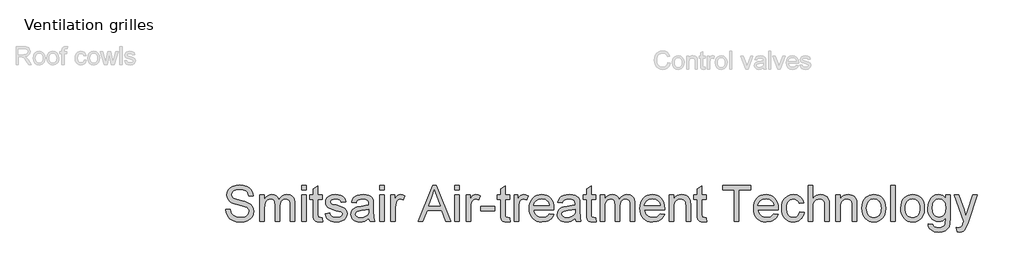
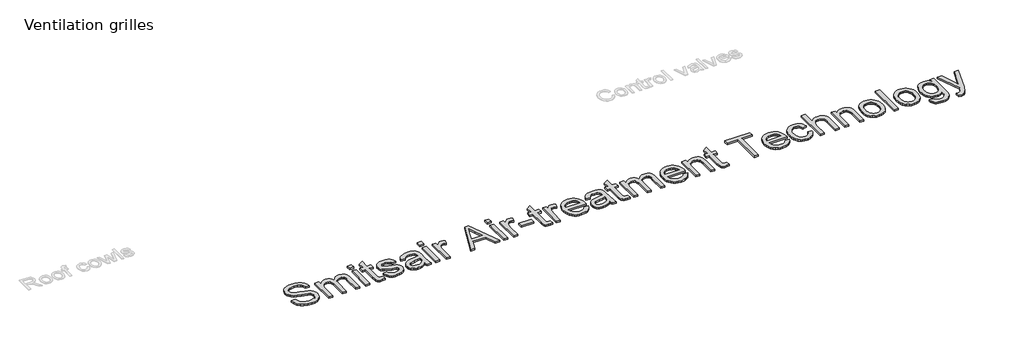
# One storey, part 5 of 10: 1 proxy.
"""IFC4 building model written with IfcOpenShell, lengths in millimetres."""

import ifcopenshell
import ifcopenshell.guid

model = None  # the IFC model being written
_history = None  # IfcOwnerHistory: only IFC2X3 demands one
_inside = {}  # id of a spatial element -> (the spatial element, [elements in it])
_under = {}  # id of a project, library or spatial element -> (it, [spatial elements below it])
_declared = {}  # id of a project -> (the project, [libraries it declares])
_typed = {}  # id of a type object -> (the type object, [elements of that type])
_made_of = {}  # id of a material, layer set ... -> (it, [elements and type objects made of it])


def new_model(schema):
    """Start an empty IFC model of exactly this schema.

    Asked for "IFC4X3", IfcOpenShell would pick the latest addendum, in which some entities
    have other attributes; the version numbers below select the first issue.
    IFC2X3 requires an IfcOwnerHistory on every rooted entity: one is made here for all.
    """
    global model, _history
    if schema == "IFC4X3":
        model = ifcopenshell.file(schema_version=(4, 3, 0, 0))
    else:
        model = ifcopenshell.file(schema=schema)
    _inside.clear()
    _under.clear()
    _declared.clear()
    _typed.clear()
    _made_of.clear()
    _history = None
    if model.schema == "IFC2X3":
        org = make("IfcOrganization", Name="unknown")
        user = make(
            "IfcPersonAndOrganization",
            ThePerson=make("IfcPerson", FamilyName="unknown"),
            TheOrganization=org,
        )
        app = make(
            "IfcApplication",
            ApplicationDeveloper=org,
            Version="unknown",
            ApplicationFullName="unknown",
            ApplicationIdentifier="unknown",
        )
        _history = make(
            "IfcOwnerHistory",
            OwningUser=user,
            OwningApplication=app,
            ChangeAction="ADDED",
            CreationDate=0,
        )
    return model


def make(cls, **values):
    """One entity of the class cls with the attributes given. An attribute that is None is left unset."""
    return model.create_entity(
        cls, **{name: value for name, value in values.items() if value is not None}
    )


def rooted(cls, **values):
    """An entity with a GlobalId (a new one), such as an element, a storey or a relation."""
    return make(cls, GlobalId=ifcopenshell.guid.new(), OwnerHistory=_history, **values)


def si_unit(unit_type, name, prefix=None):
    """IfcSIUnit, for example si_unit("LENGTHUNIT", "METRE", prefix="MILLI")."""
    return make("IfcSIUnit", UnitType=unit_type, Prefix=prefix, Name=name)


def assignment(units):
    """IfcUnitAssignment: the units of a project."""
    return None if units is None else make("IfcUnitAssignment", Units=units)


def point(xyz):
    """IfcCartesianPoint."""
    return None if xyz is None else make("IfcCartesianPoint", Coordinates=xyz)


def direction(xyz):
    """IfcDirection."""
    return None if xyz is None else make("IfcDirection", DirectionRatios=xyz)


def frame(location, z_axis=None, x_axis=None):
    """IfcAxis2Placement3D, a coordinate frame: its origin and axes. An axis left out is left unset."""
    return make(
        "IfcAxis2Placement3D",
        Location=point(location),
        Axis=direction(z_axis),
        RefDirection=direction(x_axis),
    )


def origin():
    """The frame at (0, 0, 0) with its axes left unset."""
    return frame((0.0, 0.0, 0.0))


def origin_with_axes():
    """The frame at (0, 0, 0) with the z axis (0, 0, 1) and the x axis (1, 0, 0) written out."""
    return frame((0.0, 0.0, 0.0), z_axis=(0.0, 0.0, 1.0), x_axis=(1.0, 0.0, 0.0))


def place(relative_to, where):
    """IfcLocalPlacement: puts the frame where relative to a parent placement (None: the world)."""
    return make(
        "IfcLocalPlacement", PlacementRelTo=relative_to, RelativePlacement=where
    )


def context(
    kind, dimensions, precision=None, world=None, true_north=None, identifier=None
):
    """IfcGeometricRepresentationContext, for example the 3D "Model" context."""
    return make(
        "IfcGeometricRepresentationContext",
        ContextIdentifier=identifier,
        ContextType=kind,
        CoordinateSpaceDimension=dimensions,
        Precision=precision,
        WorldCoordinateSystem=world,
        TrueNorth=true_north,
    )


def project(units=None, contexts=None):
    """IfcProject with its units and contexts."""
    return rooted(
        "IfcProject",
        Name="project",
        RepresentationContexts=contexts,
        UnitsInContext=assignment(units),
    )


def spatial(cls, under=None, at=None, **own):
    """A site, building, storey or space (cls), placed at a placement, below another one or the project."""
    s = rooted(cls, ObjectPlacement=at, **own)
    if under is not None:
        _under.setdefault(under.id(), (under, []))[1].append(s)
    return s


def polyline(points):
    """IfcPolyline through the points."""
    return make("IfcPolyline", Points=[point(p) for p in points])


def outline(outer, holes=None, kind="AREA"):
    """IfcArbitraryClosedProfileDef: a profile drawn as a closed curve; with holes, ...WithVoids."""
    if holes is None:
        return make("IfcArbitraryClosedProfileDef", ProfileType=kind, OuterCurve=outer)
    return make(
        "IfcArbitraryProfileDefWithVoids",
        ProfileType=kind,
        OuterCurve=outer,
        InnerCurves=holes,
    )


def extrude(swept, where, along, depth):
    """IfcExtrudedAreaSolid: the profile swept, set in the frame where, extruded along a direction by depth."""
    return make(
        "IfcExtrudedAreaSolid",
        SweptArea=swept,
        Position=where,
        ExtrudedDirection=direction(along),
        Depth=depth,
    )


def shape(context_of_items, identifier, shape_type, items):
    """IfcShapeRepresentation: the items that make up one representation, for example the "Body"."""
    return make(
        "IfcShapeRepresentation",
        ContextOfItems=context_of_items,
        RepresentationIdentifier=identifier,
        RepresentationType=shape_type,
        Items=items,
    )


def made_of(thing, what):
    """Note that an element or type object is made of a material, layer set ...; save() writes the relation."""
    if what is not None:
        _made_of.setdefault(what.id(), (what, []))[1].append(thing)
    return thing


def element(
    cls,
    number,
    at=None,
    inside=None,
    cuts=None,
    type_object=None,
    material=None,
    context=None,
    identifier="Body",
    shape_type=None,
    held_by="IfcProductDefinitionShape",
    body=None,
    shapes=None,
    **own,
):
    """One element of the class cls, such as IfcWall. Its Tag is "e" and its number.

    at: its placement. inside: the storey or other place that contains it. cuts: it is an
    opening in that element (IfcRelVoidsElement). A single representation is given by context,
    identifier, shape_type and body (its items); several are given by shapes. held_by: the class
    of the entity that holds the representations. save() writes the other relations.
    """
    e = rooted(cls, Tag="e%d" % number, ObjectPlacement=at, **own)
    if body is not None:
        shapes = [shape(context, identifier, shape_type, body)]
    if shapes is not None:
        e.Representation = make(held_by, Representations=shapes)
    if inside is not None:
        _inside.setdefault(inside.id(), (inside, []))[1].append(e)
    if cuts is not None:
        rooted(
            "IfcRelVoidsElement", RelatingBuildingElement=cuts, RelatedOpeningElement=e
        )
    if type_object is not None:
        _typed.setdefault(type_object.id(), (type_object, []))[1].append(e)
    return made_of(e, material)


def aggregate(whole, parts):
    """IfcRelAggregates: a whole, such as a stair, and the parts it consists of."""
    return rooted("IfcRelAggregates", RelatingObject=whole, RelatedObjects=parts)


def save(model, path):
    """Write the relations noted so far, then the file.

    IfcRelAggregates (storeys below a building ...), IfcRelContainedInSpatialStructure (elements
    in a storey), IfcRelDefinesByType, IfcRelAssociatesMaterial and IfcRelDeclares: one each for
    every whole, place, type object, material and project.
    """
    for whole, parts in _under.values():
        aggregate(whole, parts)
    for where, things in _inside.values():
        rooted(
            "IfcRelContainedInSpatialStructure",
            RelatedElements=things,
            RelatingStructure=where,
        )
    for kind, things in _typed.values():
        rooted("IfcRelDefinesByType", RelatedObjects=things, RelatingType=kind)
    for what, things in _made_of.values():
        rooted("IfcRelAssociatesMaterial", RelatedObjects=things, RelatingMaterial=what)
    for by, libraries in _declared.values():
        rooted("IfcRelDeclares", RelatingContext=by, RelatedDefinitions=libraries)
    model.write(path)


model = new_model("IFC4")

# Units and contexts
model_context = context("Model", 3, world=origin())
ifc_project = project(units=[si_unit("LENGTHUNIT", "METRE", prefix="MILLI")], contexts=[model_context])

# Site, building, storey
site = spatial("IfcSite", under=ifc_project)
building = spatial("IfcBuilding", under=site)
storey = spatial("IfcBuildingStorey", under=building, Name="Ventilation grilles", Elevation=0.0)

# Proxy
placement = place(None, origin())
element("IfcBuildingElementProxy", 1, Name="400mm", ObjectType="400mm", at=placement, inside=storey, context=model_context, shape_type="SweptSolid", body=[
    extrude(outline(polyline([(7278.9594652, -17985.5221617), (7329.1876202, -17985.5221617), (7334.9511048, -18013.3953542), (7345.374428, -18035.7993677), (7361.6348122, -18053.5803308), (7384.9094798, -18067.5843721), (7413.3590207, -18076.6710574), (7445.1440251, -18079.6999525), (7473.1275822, -18077.4068214), (7497.6285231, -18070.5274281), (7517.4818881, -18059.638121), (7531.5227176, -18045.3152487), (7539.8736389, -18028.8709235), (7542.6572793, -18011.6172579), (7540.5726147, -17994.8050507), (7534.3186208, -17980.2737119), (7521.6144292, -17967.8760887), (7500.1791716, -17957.4650282), (7427.044231, -17938.2861135), (7379.0356306, -17925.5941847), (7348.317484, -17913.5153925), (7323.3137711, -17896.6173462), (7305.5941216, -17876.1385818), (7295.0359084, -17852.5205577), (7291.5165039, -17826.2047323), (7295.8697742, -17796.7864355), (7308.929585, -17769.3547014), (7330.3525799, -17746.1045593), (7359.7954022, -17729.2310384), (7395.1365993, -17718.9671307), (7434.2547181, -17715.5458282), (7476.6347239, -17719.1265463), (7513.717229, -17729.8687005), (7544.1778582, -17747.5515618), (7566.6922363, -17771.9544008), (7580.9415323, -17801.5566387), (7586.606915, -17834.8376965), (7536.3787599, -17834.8376965), (7527.1571846, -17804.8675766), (7518.7940006, -17793.0095136), (7507.929219, -17783.2361153), (7477.8855227, -17770.1395163), (7436.2167554, -17765.7739833), (7393.5669694, -17770.0904653), (7377.2636657, -17775.4860679), (7364.3080881, -17783.0399116), (7347.3855163, -17802.0961989), (7341.744659, -17824.7332044), (7345.74231, -17844.0347464), (7357.7352631, -17859.5593666), (7386.0867022, -17873.4407805), (7439.7484225, -17887.6165001), (7495.1269255, -17901.0809811), (7528.6287126, -17912.8286795), (7557.2621945, -17931.051101), (7577.2381869, -17953.5409536), (7588.9736225, -17980.0529827), (7592.8854344, -18010.3419337), (7588.3850113, -18041.3053349), (7574.8837421, -18070.4293262), (7552.9334497, -18095.4943528), (7523.0859572, -18114.28086), (7487.1929372, -18126.0162957), (7447.1060624, -18129.9281076), (7397.8957142, -18125.7097274), (7357.3919065, -18113.0545867), (7325.1286556, -18091.9136347), (7300.6399774, -18062.2378204), (7284.9191535, -18026.0872831), (7278.9594652, -17985.5221617)])), origin_with_axes(), (0.0, 0.0, 1.0), 20.0),
    extrude(outline(polyline([(7661.9491476, -18123.6495882), (7661.9491476, -17828.5591771), (7712.1773027, -17828.5591771), (7712.1773027, -17877.1196005), (7727.28499, -17854.8136888), (7746.7091593, -17837.3392941), (7769.7876231, -17826.0453168), (7795.8581939, -17822.2806577), (7823.7927, -17826.1188932), (7846.1844508, -17837.6335997), (7862.9108189, -17856.0644876), (7873.8491768, -17880.6512676), (7892.1574375, -17855.1141258), (7913.0408721, -17836.8733102), (7936.4994806, -17825.9288208), (7962.5332631, -17822.2806577), (7982.6410799, -17823.798171), (8000.2902186, -17828.3507106), (8015.4806793, -17835.9382768), (8028.212462, -17846.5608694), (8038.2771003, -17860.3411158), (8045.4661276, -17877.4016433), (8049.779544, -17897.742452), (8051.2173494, -17921.3635418), (8051.2173494, -18123.6495882), (8000.9891944, -18123.6495882), (8000.9891944, -17942.9459521), (7999.8242347, -17917.8931883), (7996.3293558, -17901.0074047), (7989.7810563, -17889.4436473), (7979.4558349, -17880.356962), (7966.1752949, -17874.4708501), (7950.7610393, -17872.5088128), (7923.5500344, -17877.5365334), (7901.3667501, -17892.6196952), (7892.7613771, -17904.189584), (7886.6146821, -17918.7883678), (7881.6973261, -17957.0726208), (7881.6973261, -18123.6495882), (7831.469171, -18123.6495882), (7831.469171, -17937.3541458), (7828.5629032, -17908.9536558), (7819.8440999, -17888.6956206), (7804.5034207, -17876.5555147), (7781.7315252, -17872.5088128), (7762.3809323, -17875.2066141), (7744.5509183, -17883.300018), (7729.8356385, -17896.5928208), (7719.8292482, -17914.8888186), (7714.0902891, -17940.2726763), (7712.1773027, -17974.8290584), (7712.1773027, -18123.6495882), (7661.9491476, -18123.6495882)])), origin_with_axes(), (0.0, 0.0, 1.0), 20.0),
    extrude(outline(polyline([(8126.5595821, -18123.6495882), (8126.5595821, -17828.5591771), (8176.7877371, -17828.5591771), (8176.7877371, -18123.6495882), (8126.5595821, -18123.6495882)])), origin_with_axes(), (0.0, 0.0, 1.0), 20.0),
    extrude(outline(polyline([(8126.5595821, -17772.0525027), (8126.5595821, -17721.8243476), (8176.7877371, -17721.8243476), (8176.7877371, -17772.0525027), (8126.5595821, -17772.0525027)])), origin_with_axes(), (0.0, 0.0, 1.0), 20.0),
    extrude(outline(polyline([(8358.8647993, -18081.7600917), (8365.1433187, -18125.1211162), (8327.5703042, -18129.9281076), (8303.4617708, -18127.8434429), (8285.484604, -18121.589449), (8272.7804124, -18111.9509407), (8264.4908048, -18099.712733), (8259.929068, -18078.6944084), (8258.4084891, -18042.7155492), (8258.4084891, -17878.7873322), (8220.7373728, -17878.7873322), (8220.7373728, -17828.5591771), (8258.4084891, -17828.5591771), (8258.4084891, -17756.8467135), (8308.6366442, -17727.318052), (8308.6366442, -17828.5591771), (8358.8647993, -17828.5591771), (8358.8647993, -17878.7873322), (8308.6366442, -17878.7873322), (8308.6366442, -18041.2440213), (8311.2853946, -18067.1429137), (8319.8693078, -18076.3154381), (8336.9880833, -18079.6999525), (8358.8647993, -18081.7600917)])), origin_with_axes(), (0.0, 0.0, 1.0), 20.0),
    extrude(outline(polyline([(8390.2573962, -18035.7503168), (8440.4855513, -18029.4717974), (8448.4072769, -18050.9561059), (8463.7356934, -18066.7505063), (8486.5689025, -18076.4625909), (8517.0050063, -18079.6999525), (8547.073228, -18076.7323711), (8568.21418, -18067.8296268), (8580.7221678, -18054.9292315), (8584.8914971, -18039.968697), (8580.6976424, -18027.1664036), (8568.1160781, -18017.405268), (8516.4163951, -18003.0823956), (8440.7798569, -17978.5078783), (8421.6377304, -17966.159306), (8407.7685792, -17949.8130827), (8399.3440815, -17930.5115407), (8396.5359156, -17909.2970123), (8398.7922585, -17889.8360548), (8405.5612872, -17871.8711507), (8416.2298651, -17856.1135386), (8430.1848554, -17843.2744569), (8462.1170126, -17828.4120243), (8483.0004472, -17823.8134994), (8505.3308843, -17822.2806577), (8538.0233309, -17824.7454671), (8566.4483464, -17832.1398952), (8589.3060811, -17843.7404408), (8605.2966851, -17858.8236026), (8615.8916866, -17878.5052893), (8622.5626134, -17903.9014097), (8572.3344583, -17910.1799291), (8565.9946253, -17894.373266), (8553.4498493, -17882.4661521), (8534.5775029, -17874.9981476), (8509.2549589, -17872.5088128), (8480.4130105, -17874.887783), (8461.1850449, -17882.0246937), (8450.3693142, -17892.3253896), (8446.7640707, -17904.1957153), (8452.7482845, -17918.8128933), (8471.4857407, -17929.8984041), (8514.7486634, -17940.5915074), (8588.4722152, -17964.2340569), (8607.9454355, -17975.5402969), (8622.7097662, -17991.0158662), (8632.0171807, -18010.7098157), (8635.1196522, -18034.6711963), (8631.4776204, -18059.4419173), (8620.5515252, -18082.7411103), (8602.7582994, -18102.7416281), (8578.5148759, -18117.6163235), (8549.2314691, -18126.8501615), (8516.3182932, -18129.9281076), (8489.2850979, -18128.4443168), (8465.6732052, -18123.9929447), (8445.482615, -18116.5739911), (8428.7133274, -18106.1874561), (8415.0158545, -18092.8823906), (8404.0407083, -18076.7078456), (8395.7878889, -18057.663821), (8390.2573962, -18035.7503168)])), origin_with_axes(), (0.0, 0.0, 1.0), 20.0),
    extrude(outline(polyline([(8879.9819082, -18085.9784719), (8855.9837394, -18106.5553381), (8831.274332, -18120.0198192), (8805.2896004, -18127.4510355), (8777.4654589, -18129.9281076), (8755.1012992, -18128.4381855), (8735.4901232, -18123.9684192), (8718.6319308, -18116.5188088), (8704.5267219, -18106.0893543), (8693.3890945, -18093.3422431), (8685.4336464, -18078.939663), (8680.6603775, -18062.8816139), (8679.0692879, -18045.1680959), (8681.4727836, -18024.3459749), (8688.6832707, -18005.4368404), (8699.8055697, -17989.2500326), (8713.944501, -17976.594892), (8730.5605045, -17967.0299601), (8749.1140198, -17960.1137786), (8792.5731461, -17952.559935), (8843.9294727, -17944.6136839), (8879.6876026, -17935.2940066), (8879.9819082, -17924.110394), (8876.5238174, -17901.6941178), (8866.1495452, -17887.0278889), (8842.948454, -17876.1385818), (8810.6238894, -17872.5088128), (8780.7028204, -17874.9245712), (8759.8071231, -17882.1718465), (8745.5578271, -17895.5750139), (8735.5759623, -17916.4584485), (8685.3478073, -17910.1799291), (8694.0666106, -17882.7114068), (8707.0773704, -17861.1289964), (8725.5940975, -17844.6233576), (8750.8308024, -17832.3851499), (8781.6961018, -17824.8067808), (8817.0986125, -17822.2806577), (8851.0541206, -17824.5124752), (8877.9708199, -17831.2079275), (8898.2656433, -17841.2756314), (8912.3555238, -17853.6242037), (8921.6997264, -17868.8913065), (8927.7575166, -17887.7146019), (8930.2100633, -17931.6642376), (8930.2100633, -17994.1551259), (8932.7607118, -18081.4167351), (8942.767102, -18123.6495882), (8892.538947, -18123.6495882), (8884.494594, -18106.1874561), (8879.9819082, -18085.9784719)]), holes=[polyline([(8879.9819082, -17985.5221617), (8846.2348665, -17993.8853457), (8798.9497674, -18000.9241546), (8755.7358957, -18009.0666094), (8744.4909694, -18014.6338903), (8736.1645735, -18022.3103612), (8731.0142256, -18031.5074111), (8729.297443, -18041.6364287), (8733.0375766, -18056.5724377), (8744.2579774, -18068.8106454), (8762.7133909, -18076.9776257), (8788.1585622, -18079.6999525), (8815.1365752, -18076.6955829), (8838.9753285, -18067.682474), (8858.3013959, -18054.401934), (8871.7413515, -18038.5952709), (8877.7010398, -18022.3103612), (8879.6876026, -17999.7469322), (8879.9819082, -17985.5221617)])]), origin_with_axes(), (0.0, 0.0, 1.0), 20.0),
    extrude(outline(polyline([(8999.2737765, -17772.0525027), (8999.2737765, -17721.8243476), (9049.5019316, -17721.8243476), (9049.5019316, -17772.0525027), (8999.2737765, -17772.0525027)])), origin_with_axes(), (0.0, 0.0, 1.0), 20.0),
    extrude(outline(polyline([(8999.2737765, -18123.6495882), (8999.2737765, -17828.5591771), (9049.5019316, -17828.5591771), (9049.5019316, -18123.6495882), (8999.2737765, -18123.6495882)])), origin_with_axes(), (0.0, 0.0, 1.0), 20.0),
    extrude(outline(polyline([(9124.8441642, -18123.6495882), (9124.8441642, -17828.5591771), (9168.7937999, -17828.5591771), (9168.7937999, -17872.2145072), (9185.0296586, -17846.9042259), (9199.9901931, -17831.9927424), (9214.9997785, -17824.7086789), (9231.38279, -17822.2806577), (9256.3987656, -17826.1556814), (9281.8071488, -17837.7807525), (9265.0317298, -17882.8095087), (9247.373394, -17875.0839868), (9229.7150583, -17872.5088128), (9214.7177356, -17874.9858849), (9201.3145682, -17882.4171012), (9190.4865748, -17894.238376), (9183.2147741, -17909.8856235), (9177.107933, -17937.942757), (9175.0723192, -17968.550539), (9175.0723192, -18123.6495882), (9124.8441642, -18123.6495882)])), origin_with_axes(), (0.0, 0.0, 1.0), 20.0),
    extrude(outline(polyline([(9429.6466599, -18123.6495882), (9590.0432098, -17721.8243476), (9632.8156231, -17721.8243476), (9793.212173, -18123.6495882), (9740.1390638, -18123.6495882), (9694.129289, -17998.0792005), (9528.6314421, -17998.0792005), (9482.7197691, -18123.6495882), (9429.6466599, -18123.6495882)]), holes=[polyline([(9547.0745928, -17947.8510454), (9675.7842401, -17947.8510454), (9639.5846518, -17849.062467), (9611.4294165, -17772.0525027), (9586.4134408, -17840.4295028), (9547.0745928, -17947.8510454)])]), origin_with_axes(), (0.0, 0.0, 1.0), 20.0),
    extrude(outline(polyline([(9840.595374, -18123.6495882), (9840.595374, -17828.5591771), (9890.8235291, -17828.5591771), (9890.8235291, -18123.6495882), (9840.595374, -18123.6495882)])), origin_with_axes(), (0.0, 0.0, 1.0), 20.0),
    extrude(outline(polyline([(9840.595374, -17772.0525027), (9840.595374, -17721.8243476), (9890.8235291, -17721.8243476), (9890.8235291, -17772.0525027), (9840.595374, -17772.0525027)])), origin_with_axes(), (0.0, 0.0, 1.0), 20.0),
    extrude(outline(polyline([(9966.1657617, -18123.6495882), (9966.1657617, -17828.5591771), (10010.1153974, -17828.5591771), (10010.1153974, -17872.2145072), (10026.3512561, -17846.9042259), (10041.3117906, -17831.9927424), (10056.321376, -17824.7086789), (10072.7043875, -17822.2806577), (10097.7203632, -17826.1556814), (10123.1287463, -17837.7807525), (10106.3533273, -17882.8095087), (10088.6949915, -17875.0839868), (10071.0366558, -17872.5088128), (10056.0393331, -17874.9858849), (10042.6361657, -17882.4171012), (10031.8081723, -17894.238376), (10024.5363716, -17909.8856235), (10018.4295305, -17937.942757), (10016.3939168, -17968.550539), (10016.3939168, -18123.6495882), (9966.1657617, -18123.6495882)])), origin_with_axes(), (0.0, 0.0, 1.0), 20.0),
    extrude(outline(polyline([(10129.4072657, -18004.3577199), (10129.4072657, -17954.1295648), (10286.3702503, -17954.1295648), (10286.3702503, -18004.3577199), (10129.4072657, -18004.3577199)])), origin_with_axes(), (0.0, 0.0, 1.0), 20.0),
    extrude(outline(polyline([(10449.6117543, -18081.7600917), (10455.8902737, -18125.1211162), (10418.3172592, -18129.9281076), (10394.2087258, -18127.8434429), (10376.231559, -18121.589449), (10363.5273674, -18111.9509407), (10355.2377598, -18099.712733), (10350.676023, -18078.6944084), (10349.1554441, -18042.7155492), (10349.1554441, -17878.7873322), (10311.4843278, -17878.7873322), (10311.4843278, -17828.5591771), (10349.1554441, -17828.5591771), (10349.1554441, -17756.8467135), (10399.3835992, -17727.318052), (10399.3835992, -17828.5591771), (10449.6117543, -17828.5591771), (10449.6117543, -17878.7873322), (10399.3835992, -17878.7873322), (10399.3835992, -18041.2440213), (10402.0323496, -18067.1429137), (10410.6162628, -18076.3154381), (10427.7350383, -18079.6999525), (10449.6117543, -18081.7600917)])), origin_with_axes(), (0.0, 0.0, 1.0), 20.0),
    extrude(outline(polyline([(10499.8399093, -18123.6495882), (10499.8399093, -17828.5591771), (10543.789545, -17828.5591771), (10543.789545, -17872.2145072), (10560.0254038, -17846.9042259), (10574.9859382, -17831.9927424), (10589.9955236, -17824.7086789), (10606.3785351, -17822.2806577), (10631.3945108, -17826.1556814), (10656.802894, -17837.7807525), (10640.027475, -17882.8095087), (10622.3691392, -17875.0839868), (10604.7108034, -17872.5088128), (10589.7134808, -17874.9858849), (10576.3103134, -17882.4171012), (10565.48232, -17894.238376), (10558.2105192, -17909.8856235), (10552.1036781, -17937.942757), (10550.0680644, -17968.550539), (10550.0680644, -18123.6495882), (10499.8399093, -18123.6495882)])), origin_with_axes(), (0.0, 0.0, 1.0), 20.0),
    extrude(outline(polyline([(10894.7980194, -18035.7503168), (10944.0451558, -18042.0288362), (10936.4943778, -18061.7534425), (10926.3009809, -18079.1358668), (10913.4649649, -18094.176109), (10897.98633, -18106.8741692), (10880.0244916, -18116.9602672), (10859.7388652, -18124.164623), (10812.1962487, -18129.9281076), (10781.0305124, -18127.4418384), (10753.2615531, -18119.983031), (10728.8893709, -18107.5516852), (10707.9139658, -18090.1478011), (10691.0465763, -18068.2557568), (10678.998441, -18042.35993), (10671.7695598, -18012.4603208), (10669.3599327, -17978.5569293), (10671.7940853, -17943.5039065), (10679.0965429, -17912.6079503), (10691.2673055, -17885.8690606), (10708.3063733, -17863.2872375), (10729.2265961, -17845.3468588), (10753.0408239, -17832.5323027), (10779.7490567, -17824.843569), (10809.3512946, -17822.2806577), (10838.000105, -17824.8374376), (10863.9081945, -17832.5077772), (10887.0755632, -17845.2916765), (10907.5022109, -17863.1891356), (10924.1764624, -17885.7219078), (10936.086642, -17912.4117465), (10943.2327497, -17943.2586518), (10945.6147856, -17978.2626237), (10945.32048, -17991.8006811), (10719.5880878, -17991.8006811), (10722.4974212, -18011.8441185), (10728.2823656, -18029.398221), (10736.9429209, -18044.4629887), (10748.4790872, -18057.0384216), (10762.2532022, -18066.9528414), (10777.6276039, -18074.0345698), (10813.1772674, -18079.6999525), (10839.9100257, -18077.0757276), (10862.4244038, -18069.2030529), (10880.7204017, -18055.5914191), (10894.7980194, -18035.7503168)]), holes=[polyline([(10719.5880878, -17941.572526), (10895.3866306, -17941.572526), (10888.5930764, -17915.0359714), (10875.2757482, -17896.0532605), (10861.5782752, -17885.7525646), (10845.9923413, -17878.3949247), (10828.5179466, -17873.9803408), (10809.1550909, -17872.5088128), (10775.2976846, -17877.2054396), (10747.3018648, -17891.29532), (10727.8409072, -17913.2578751), (10719.5880878, -17941.572526)])]), origin_with_axes(), (0.0, 0.0, 1.0), 20.0),
    extrude(outline(polyline([(11184.1985222, -18085.9784719), (11160.2003534, -18106.5553381), (11135.4909461, -18120.0198192), (11109.5062145, -18127.4510355), (11081.6820729, -18129.9281076), (11059.3179133, -18128.4381855), (11039.7067373, -18123.9684192), (11022.8485448, -18116.5188088), (11008.743336, -18106.0893543), (10997.6057086, -18093.3422431), (10989.6502605, -18078.939663), (10984.8769916, -18062.8816139), (10983.2859019, -18045.1680959), (10985.6893976, -18024.3459749), (10992.8998847, -18005.4368404), (11004.0221837, -17989.2500326), (11018.1611151, -17976.594892), (11034.7771185, -17967.0299601), (11053.3306338, -17960.1137786), (11096.7897602, -17952.559935), (11148.1460867, -17944.6136839), (11183.9042166, -17935.2940066), (11184.1985222, -17924.110394), (11180.7404315, -17901.6941178), (11170.3661592, -17887.0278889), (11147.1650681, -17876.1385818), (11114.8405034, -17872.5088128), (11084.9194345, -17874.9245712), (11064.0237371, -17882.1718465), (11049.7744412, -17895.5750139), (11039.7925764, -17916.4584485), (10989.5644213, -17910.1799291), (10998.2832246, -17882.7114068), (11011.2939845, -17861.1289964), (11029.8107116, -17844.6233576), (11055.0474165, -17832.3851499), (11085.9127159, -17824.8067808), (11121.3152265, -17822.2806577), (11155.2707347, -17824.5124752), (11182.187434, -17831.2079275), (11202.4822574, -17841.2756314), (11216.5721378, -17853.6242037), (11225.9163405, -17868.8913065), (11231.9741307, -17887.7146019), (11234.4266773, -17931.6642376), (11234.4266773, -17994.1551259), (11236.9773258, -18081.4167351), (11246.9837161, -18123.6495882), (11196.755561, -18123.6495882), (11188.711208, -18106.1874561), (11184.1985222, -18085.9784719)]), holes=[polyline([(11184.1985222, -17985.5221617), (11150.4514805, -17993.8853457), (11103.1663814, -18000.9241546), (11059.9525097, -18009.0666094), (11048.7075834, -18014.6338903), (11040.3811876, -18022.3103612), (11035.2308397, -18031.5074111), (11033.514057, -18041.6364287), (11037.2541906, -18056.5724377), (11048.4745915, -18068.8106454), (11066.9300049, -18076.9776257), (11092.3751762, -18079.6999525), (11119.3531892, -18076.6955829), (11143.1919425, -18067.682474), (11162.51801, -18054.401934), (11175.9579655, -18038.5952709), (11181.9176539, -18022.3103612), (11183.9042166, -17999.7469322), (11184.1985222, -17985.5221617)])]), origin_with_axes(), (0.0, 0.0, 1.0), 20.0),
    extrude(outline(polyline([(11410.2252201, -18081.7600917), (11416.5037395, -18125.1211162), (11378.930725, -18129.9281076), (11354.8221916, -18127.8434429), (11336.8450248, -18121.589449), (11324.1408332, -18111.9509407), (11315.8512256, -18099.712733), (11311.2894888, -18078.6944084), (11309.7689099, -18042.7155492), (11309.7689099, -17878.7873322), (11272.0977936, -17878.7873322), (11272.0977936, -17828.5591771), (11309.7689099, -17828.5591771), (11309.7689099, -17756.8467135), (11359.997065, -17727.318052), (11359.997065, -17828.5591771), (11410.2252201, -17828.5591771), (11410.2252201, -17878.7873322), (11359.997065, -17878.7873322), (11359.997065, -18041.2440213), (11362.6458154, -18067.1429137), (11371.2297286, -18076.3154381), (11388.3485041, -18079.6999525), (11410.2252201, -18081.7600917)])), origin_with_axes(), (0.0, 0.0, 1.0), 20.0),
    extrude(outline(polyline([(11460.4533752, -18123.6495882), (11460.4533752, -17828.5591771), (11510.6815302, -17828.5591771), (11510.6815302, -17877.1196005), (11525.7892175, -17854.8136888), (11545.2133868, -17837.3392941), (11568.2918507, -17826.0453168), (11594.3624214, -17822.2806577), (11622.2969276, -17826.1188932), (11644.6886783, -17837.6335997), (11661.4150464, -17856.0644876), (11672.3534044, -17880.6512676), (11690.661665, -17855.1141258), (11711.5450996, -17836.8733102), (11735.0037082, -17825.9288208), (11761.0374907, -17822.2806577), (11781.1453074, -17823.798171), (11798.7944461, -17828.3507106), (11813.9849068, -17835.9382768), (11826.7166895, -17846.5608694), (11836.7813278, -17860.3411158), (11843.9703551, -17877.4016433), (11848.2837715, -17897.742452), (11849.721577, -17921.3635418), (11849.721577, -18123.6495882), (11799.4934219, -18123.6495882), (11799.4934219, -17942.9459521), (11798.3284623, -17917.8931883), (11794.8335833, -17901.0074047), (11788.2852838, -17889.4436473), (11777.9600625, -17880.356962), (11764.6795224, -17874.4708501), (11749.2652668, -17872.5088128), (11722.0542619, -17877.5365334), (11699.8709776, -17892.6196952), (11691.2656046, -17904.189584), (11685.1189096, -17918.7883678), (11680.2015536, -17957.0726208), (11680.2015536, -18123.6495882), (11629.9733985, -18123.6495882), (11629.9733985, -17937.3541458), (11627.0671308, -17908.9536558), (11618.3483275, -17888.6956206), (11603.0076483, -17876.5555147), (11580.2357528, -17872.5088128), (11560.8851598, -17875.2066141), (11543.0551458, -17883.300018), (11528.339866, -17896.5928208), (11518.3334757, -17914.8888186), (11512.5945166, -17940.2726763), (11510.6815302, -17974.8290584), (11510.6815302, -18123.6495882), (11460.4533752, -18123.6495882)])), origin_with_axes(), (0.0, 0.0, 1.0), 20.0),
    extrude(outline(polyline([(12131.6663381, -18035.7503168), (12180.9134745, -18042.0288362), (12173.3626966, -18061.7534425), (12163.1692996, -18079.1358668), (12150.3332837, -18094.176109), (12134.8546487, -18106.8741692), (12116.8928103, -18116.9602672), (12096.6071839, -18124.164623), (12049.0645674, -18129.9281076), (12017.8988311, -18127.4418384), (11990.1298718, -18119.983031), (11965.7576896, -18107.5516852), (11944.7822845, -18090.1478011), (11927.9148951, -18068.2557568), (11915.8667597, -18042.35993), (11908.6378785, -18012.4603208), (11906.2282514, -17978.5569293), (11908.662404, -17943.5039065), (11915.9648616, -17912.6079503), (11928.1356243, -17885.8690606), (11945.174692, -17863.2872375), (11966.0949148, -17845.3468588), (11989.9091426, -17832.5323027), (12016.6173755, -17824.843569), (12046.2196133, -17822.2806577), (12074.8684237, -17824.8374376), (12100.7765132, -17832.5077772), (12123.9438819, -17845.2916765), (12144.3705297, -17863.1891356), (12161.0447811, -17885.7219078), (12172.9549607, -17912.4117465), (12180.1010684, -17943.2586518), (12182.4831044, -17978.2626237), (12182.1887988, -17991.8006811), (11956.4564065, -17991.8006811), (11959.36574, -18011.8441185), (11965.1506843, -18029.398221), (11973.8112396, -18044.4629887), (11985.3474059, -18057.0384216), (11999.1215209, -18066.9528414), (12014.4959226, -18074.0345698), (12050.0455861, -18079.6999525), (12076.7783444, -18077.0757276), (12099.2927225, -18069.2030529), (12117.5887204, -18055.5914191), (12131.6663381, -18035.7503168)]), holes=[polyline([(11956.4564065, -17941.572526), (12132.2549493, -17941.572526), (12125.4613951, -17915.0359714), (12112.1440669, -17896.0532605), (12098.4465939, -17885.7525646), (12082.8606601, -17878.3949247), (12065.3862653, -17873.9803408), (12046.0234096, -17872.5088128), (12012.1660033, -17877.2054396), (11984.1701835, -17891.29532), (11964.7092259, -17913.2578751), (11956.4564065, -17941.572526)])]), origin_with_axes(), (0.0, 0.0, 1.0), 20.0),
    extrude(outline(polyline([(12232.7112594, -18123.6495882), (12232.7112594, -17828.5591771), (12282.9394145, -17828.5591771), (12282.9394145, -17869.7619606), (12300.3892838, -17848.9888906), (12321.3462948, -17834.1509834), (12345.8104475, -17825.2482392), (12373.7817418, -17822.2806577), (12398.5402001, -17824.6718907), (12421.2139938, -17831.8455896), (12440.1231283, -17842.9065749), (12453.5876093, -17856.9596671), (12462.7233455, -17873.9680781), (12468.6462457, -17893.8950195), (12471.294996, -17942.4554428), (12471.294996, -18123.6495882), (12421.066841, -18123.6495882), (12421.066841, -17949.2244715), (12419.6198384, -17923.2520027), (12415.2788309, -17904.7843265), (12407.2712661, -17891.5528374), (12394.824592, -17881.2889298), (12378.8707761, -17874.703842), (12360.3417863, -17872.5088128), (12330.9234894, -17877.4384315), (12305.8462001, -17892.2272877), (12295.8244814, -17904.2999486), (12288.6661109, -17920.799456), (12284.3710886, -17941.7258102), (12282.9394145, -17967.079011), (12282.9394145, -18123.6495882), (12232.7112594, -18123.6495882)])), origin_with_axes(), (0.0, 0.0, 1.0), 20.0),
    extrude(outline(polyline([(12647.0935388, -18081.7600917), (12653.3720582, -18125.1211162), (12615.7990437, -18129.9281076), (12591.6905103, -18127.8434429), (12573.7133435, -18121.589449), (12561.0091519, -18111.9509407), (12552.7195443, -18099.712733), (12548.1578076, -18078.6944084), (12546.6372286, -18042.7155492), (12546.6372286, -17878.7873322), (12508.9661123, -17878.7873322), (12508.9661123, -17828.5591771), (12546.6372286, -17828.5591771), (12546.6372286, -17756.8467135), (12596.8653837, -17727.318052), (12596.8653837, -17828.5591771), (12647.0935388, -17828.5591771), (12647.0935388, -17878.7873322), (12596.8653837, -17878.7873322), (12596.8653837, -18041.2440213), (12599.5141341, -18067.1429137), (12608.0980473, -18076.3154381), (12625.2168228, -18079.6999525), (12647.0935388, -18081.7600917)])), origin_with_axes(), (0.0, 0.0, 1.0), 20.0),
    extrude(outline(polyline([(12961.019508, -18123.6495882), (12961.019508, -17772.0525027), (12829.1706009, -17772.0525027), (12829.1706009, -17721.8243476), (13143.0965702, -17721.8243476), (13143.0965702, -17772.0525027), (13011.2476631, -17772.0525027), (13011.2476631, -18123.6495882), (12961.019508, -18123.6495882)])), origin_with_axes(), (0.0, 0.0, 1.0), 20.0),
    extrude(outline(polyline([(13399.9272537, -18035.7503168), (13449.1743901, -18042.0288362), (13441.6236122, -18061.7534425), (13431.4302152, -18079.1358668), (13418.5941993, -18094.176109), (13403.1155643, -18106.8741692), (13385.1537259, -18116.9602672), (13364.8680996, -18124.164623), (13317.3254831, -18129.9281076), (13286.1597467, -18127.4418384), (13258.3907874, -18119.983031), (13234.0186053, -18107.5516852), (13213.0432002, -18090.1478011), (13196.1758107, -18068.2557568), (13184.1276754, -18042.35993), (13176.8987941, -18012.4603208), (13174.4891671, -17978.5569293), (13176.9233196, -17943.5039065), (13184.2257772, -17912.6079503), (13196.3965399, -17885.8690606), (13213.4356076, -17863.2872375), (13234.3558304, -17845.3468588), (13258.1700582, -17832.5323027), (13284.8782911, -17824.843569), (13314.480529, -17822.2806577), (13343.1293394, -17824.8374376), (13369.0374289, -17832.5077772), (13392.2047975, -17845.2916765), (13412.6314453, -17863.1891356), (13429.3056967, -17885.7219078), (13441.2158763, -17912.4117465), (13448.3619841, -17943.2586518), (13450.74402, -17978.2626237), (13450.4497144, -17991.8006811), (13224.7173222, -17991.8006811), (13227.6266556, -18011.8441185), (13233.4116, -18029.398221), (13242.0721553, -18044.4629887), (13253.6083215, -18057.0384216), (13267.3824365, -18066.9528414), (13282.7568383, -18074.0345698), (13318.3065017, -18079.6999525), (13345.03926, -18077.0757276), (13367.5536381, -18069.2030529), (13385.849636, -18055.5914191), (13399.9272537, -18035.7503168)]), holes=[polyline([(13224.7173222, -17941.572526), (13400.5158649, -17941.572526), (13393.7223107, -17915.0359714), (13380.4049825, -17896.0532605), (13366.7075096, -17885.7525646), (13351.1215757, -17878.3949247), (13333.6471809, -17873.9803408), (13314.2843252, -17872.5088128), (13280.426919, -17877.2054396), (13252.4310991, -17891.29532), (13232.9701416, -17913.2578751), (13224.7173222, -17941.572526)])]), origin_with_axes(), (0.0, 0.0, 1.0), 20.0),
    extrude(outline(polyline([(13689.3277566, -18016.9147586), (13739.5559117, -18023.193278), (13734.092864, -18046.8940756), (13725.5518704, -18067.866415), (13713.9329307, -18086.1102963), (13699.236045, -18101.6257194), (13682.0804813, -18114.0080142), (13663.0855076, -18122.8525105), (13642.2511239, -18128.1592083), (13619.5773303, -18129.9281076), (13591.4067665, -18127.4602325), (13566.1486019, -18120.0566074), (13543.8028364, -18107.7172321), (13524.36947, -18090.4421067), (13508.639449, -18068.5561937), (13497.4037197, -18042.3844554), (13490.6622822, -18011.9268919), (13488.4151363, -17977.1835032), (13492.2533718, -17932.4858408), (13503.7680782, -17893.7478667), (13523.1431966, -17862.4656343), (13550.562668, -17840.1351972), (13583.3654793, -17826.7442926), (13618.8906173, -17822.2806577), (13641.1750691, -17823.8134994), (13661.3319368, -17828.4120243), (13679.3612202, -17836.0762325), (13695.2629195, -17846.8061241), (13708.7672544, -17860.3564442), (13719.6044448, -17876.4819384), (13727.7744908, -17895.1826064), (13733.2773923, -17916.4584485), (13683.0492372, -17922.7369679), (13673.9380265, -17900.8234637), (13659.7500442, -17885.1149025), (13641.2701053, -17875.6603352), (13619.2830247, -17872.5088128), (13602.2163658, -17874.0600485), (13586.82357, -17878.7137558), (13573.1046373, -17886.4699345), (13561.0595676, -17897.3285847), (13551.2524468, -17911.5410925), (13544.2473604, -17929.3588438), (13540.0443086, -17950.7818386), (13538.6432914, -17975.810077), (13544.1247331, -18022.8867097), (13550.9765353, -18040.8240226), (13560.5690583, -18055.0273333), (13572.3750046, -18065.8216042), (13585.8670768, -18073.5317977), (13601.0452748, -18078.1579138), (13617.9095986, -18079.6999525), (13643.9188557, -18075.8494543), (13665.2437486, -18064.2979596), (13680.7561061, -18044.7511629), (13689.3277566, -18016.9147586)])), origin_with_axes(), (0.0, 0.0, 1.0), 20.0),
    extrude(outline(polyline([(13783.5055474, -18123.6495882), (13783.5055474, -17721.8243476), (13833.7337024, -17721.8243476), (13833.7337024, -17869.5657568), (13852.1829845, -17848.878526), (13872.9008722, -17834.1019325), (13895.8873655, -17825.2359764), (13921.1424645, -17822.2806577), (13951.4804664, -17825.5057566), (13977.5510371, -17835.181053), (13998.0788524, -17850.5462577), (14011.7885881, -17870.8410811), (14019.51411, -17898.7265363), (14022.089284, -17936.8636365), (14022.089284, -18123.6495882), (13971.8611289, -18123.6495882), (13971.8611289, -17942.0630354), (13967.8634779, -17910.6213875), (13955.8705248, -17889.0880281), (13936.5444574, -17876.6536166), (13910.547463, -17872.5088128), (13889.3206719, -17875.304716), (13869.3937305, -17883.6924255), (13852.8880917, -17896.8626009), (13841.9252082, -17914.0059019), (13835.7815789, -17936.7900601), (13833.7337024, -17966.8828073), (13833.7337024, -18123.6495882), (13783.5055474, -18123.6495882)])), origin_with_axes(), (0.0, 0.0, 1.0), 20.0),
    extrude(outline(polyline([(14091.1529972, -18123.6495882), (14091.1529972, -17828.5591771), (14141.3811523, -17828.5591771), (14141.3811523, -17869.7619606), (14158.8310216, -17848.9888906), (14179.7880326, -17834.1509834), (14204.2521852, -17825.2482392), (14232.2234796, -17822.2806577), (14256.9819379, -17824.6718907), (14279.6557315, -17831.8455896), (14298.5648661, -17842.9065749), (14312.0293471, -17856.9596671), (14321.1650833, -17873.9680781), (14327.0879834, -17893.8950195), (14329.7367338, -17942.4554428), (14329.7367338, -18123.6495882), (14279.5085787, -18123.6495882), (14279.5085787, -17949.2244715), (14278.0615762, -17923.2520027), (14273.7205687, -17904.7843265), (14265.7130039, -17891.5528374), (14253.2663297, -17881.2889298), (14237.3125139, -17874.703842), (14218.7835241, -17872.5088128), (14189.3652272, -17877.4384315), (14164.2879378, -17892.2272877), (14154.2662191, -17904.2999486), (14147.1078487, -17920.799456), (14142.8128264, -17941.7258102), (14141.3811523, -17967.079011), (14141.3811523, -18123.6495882), (14091.1529972, -18123.6495882)])), origin_with_axes(), (0.0, 0.0, 1.0), 20.0),
    extrude(outline(polyline([(14386.2434083, -17976.1043826), (14388.9596037, -17937.8875747), (14397.1081898, -17904.9560048), (14410.6891668, -17877.3096728), (14429.7025346, -17854.9485789), (14448.8446611, -17840.6563634), (14469.9733504, -17830.447638), (14493.0886024, -17824.3224028), (14518.1904172, -17822.2806577), (14545.9011285, -17824.7669269), (14570.956958, -17832.2257343), (14593.3579059, -17844.6570801), (14613.103972, -17862.0609641), (14629.220269, -17883.8487753), (14640.7319098, -17909.4319024), (14647.6388942, -17938.8103454), (14649.9412224, -17971.9841043), (14645.869995, -18022.7272942), (14633.6563127, -18061.3549037), (14613.6557949, -18090.2826912), (14586.2240608, -18111.9264153), (14553.6419788, -18125.4276845), (14518.1904172, -18129.9281076), (14490.0750357, -18127.4510355), (14464.7862142, -18120.0198192), (14442.3239527, -18107.6344587), (14422.6882512, -18090.2949539), (14406.7436324, -18068.2956106), (14395.354619, -18041.9307343), (14388.5212109, -18011.200325), (14386.2434083, -17976.1043826)]), holes=[polyline([(14436.4715633, -17976.0062808), (14437.9246972, -18000.3692659), (14442.2840989, -18021.4642327), (14449.5497683, -18039.291181), (14459.7217054, -18053.850111), (14472.0948032, -18065.1594166), (14485.9639544, -18073.2374921), (14501.3291591, -18078.0843374), (14518.1904172, -18079.6999525), (14534.9658362, -18078.0751403), (14550.2697272, -18073.2007039), (14564.1020902, -18065.0766432), (14576.4629252, -18053.7029582), (14586.6348624, -18038.9999411), (14593.9005318, -18020.8878842), (14598.2599334, -17999.3667875), (14599.7130673, -17974.4366509), (14598.2507364, -17950.846218), (14593.8637436, -17930.3030742), (14586.5520889, -17912.8072197), (14576.3157724, -17898.3586543), (14563.9089521, -17887.0493487), (14550.0857862, -17878.9712732), (14534.8462745, -17874.1244279), (14518.1904172, -17872.5088128), (14501.3291591, -17874.1182965), (14485.9639544, -17878.9467477), (14472.0948032, -17886.9941664), (14459.7217054, -17898.2605525), (14449.5497683, -17912.7765629), (14442.2840989, -17930.5728544), (14437.9246972, -17951.649427), (14436.4715633, -17976.0062808)])]), origin_with_axes(), (0.0, 0.0, 1.0), 20.0),
    extrude(outline(polyline([(14706.4478969, -18123.6495882), (14706.4478969, -17721.8243476), (14756.6760519, -17721.8243476), (14756.6760519, -18123.6495882), (14706.4478969, -18123.6495882)])), origin_with_axes(), (0.0, 0.0, 1.0), 20.0),
    extrude(outline(polyline([(14819.4612458, -17976.1043826), (14822.1774412, -17937.8875747), (14830.3260274, -17904.9560048), (14843.9070044, -17877.3096728), (14862.9203721, -17854.9485789), (14882.0624986, -17840.6563634), (14903.1911879, -17830.447638), (14926.3064399, -17824.3224028), (14951.4082547, -17822.2806577), (14979.118966, -17824.7669269), (15004.1747956, -17832.2257343), (15026.5757434, -17844.6570801), (15046.3218095, -17862.0609641), (15062.4381065, -17883.8487753), (15073.9497473, -17909.4319024), (15080.8567318, -17938.8103454), (15083.1590599, -17971.9841043), (15079.0878325, -18022.7272942), (15066.8741503, -18061.3549037), (15046.8736325, -18090.2826912), (15019.4418984, -18111.9264153), (14986.8598163, -18125.4276845), (14951.4082547, -18129.9281076), (14923.2928732, -18127.4510355), (14898.0040517, -18120.0198192), (14875.5417903, -18107.6344587), (14855.9060888, -18090.2949539), (14839.96147, -18068.2956106), (14828.5724565, -18041.9307343), (14821.7390485, -18011.200325), (14819.4612458, -17976.1043826)]), holes=[polyline([(14869.6894009, -17976.0062808), (14871.1425347, -18000.3692659), (14875.5019364, -18021.4642327), (14882.7676058, -18039.291181), (14892.9395429, -18053.850111), (14905.3126407, -18065.1594166), (14919.1817919, -18073.2374921), (14934.5469966, -18078.0843374), (14951.4082547, -18079.6999525), (14968.1836737, -18078.0751403), (14983.4875647, -18073.2007039), (14997.3199277, -18065.0766432), (15009.6807628, -18053.7029582), (15019.8526999, -18038.9999411), (15027.1183693, -18020.8878842), (15031.477771, -17999.3667875), (15032.9309048, -17974.4366509), (15031.4685739, -17950.846218), (15027.0815811, -17930.3030742), (15019.7699265, -17912.8072197), (15009.53361, -17898.3586543), (14997.1267897, -17887.0493487), (14983.3036237, -17878.9712732), (14968.064112, -17874.1244279), (14951.4082547, -17872.5088128), (14934.5469966, -17874.1182965), (14919.1817919, -17878.9467477), (14905.3126407, -17886.9941664), (14892.9395429, -17898.2605525), (14882.7676058, -17912.7765629), (14875.5019364, -17930.5728544), (14871.1425347, -17951.649427), (14869.6894009, -17976.0062808)])]), origin_with_axes(), (0.0, 0.0, 1.0), 20.0),
    extrude(outline(polyline([(15127.1086956, -18148.7636657), (15177.3368507, -18155.0421851), (15182.8796061, -18170.7384836), (15193.6217603, -18181.5296888), (15214.7381869, -18189.9173982), (15242.3783874, -18192.7133014), (15271.857998, -18189.5495162), (15293.7837649, -18180.0581608), (15308.989554, -18164.8523716), (15318.3092312, -18144.5452855), (15321.7427965, -18085.9784719), (15305.0286912, -18102.4595853), (15286.3770741, -18114.2318091), (15265.7879451, -18121.2951434), (15243.2613042, -18123.6495882), (15215.7222712, -18120.9088673), (15191.475782, -18112.6867047), (15170.5218367, -18098.9831004), (15152.8604353, -18079.7980544), (15138.8471969, -18056.7809042), (15128.837741, -18031.5809875), (15122.8320674, -18004.1983043), (15120.8301762, -17974.6328547), (15124.423157, -17934.0799961), (15135.2020995, -17896.7890245), (15152.7868589, -17865.1879611), (15176.7972904, -17841.7048271), (15206.411791, -17827.1367001), (15240.8087576, -17822.2806577), (15264.298023, -17825.02751), (15285.6167846, -17833.2680667), (15304.7650424, -17847.0023278), (15321.7427965, -17866.2302934), (15321.7427965, -17828.5591771), (15371.9709516, -17828.5591771), (15371.9709516, -18083.3297215), (15368.5373863, -18142.1540525), (15358.2366904, -18180.8920266), (15340.4925155, -18206.5824526), (15314.7285132, -18226.2641394), (15281.508769, -18238.7721272), (15241.3973688, -18242.9414565), (15216.789129, -18241.4729942), (15194.6640927, -18237.0676073), (15175.0222598, -18229.7252958), (15157.8636304, -18219.4460597), (15144.0036762, -18206.2176363), (15134.2578691, -18190.0277628), (15128.6262088, -18170.8764393), (15127.1086956, -18148.7636657)]), holes=[polyline([(15171.0583313, -17971.1992894), (15176.4171457, -18017.2703779), (15183.1156637, -18034.9072539), (15192.4935889, -18048.9450177), (15203.8948651, -18059.6534494), (15216.663436, -18067.3023292), (15230.7993016, -18071.8916571), (15246.302462, -18073.4214331), (15261.6523383, -18071.9008542), (15275.7207589, -18067.3391174), (15288.5077239, -18059.7362229), (15300.0132333, -18049.0921705), (15309.5199172, -18035.1923624), (15316.3104057, -18017.8222009), (15321.7427965, -17972.6708174), (15316.1509902, -17929.1258519), (15309.1612323, -17911.9243029), (15299.3755712, -17897.7700431), (15287.6217415, -17886.7182549), (15274.7274775, -17878.8241204), (15260.6927794, -17874.0876397), (15245.5176471, -17872.5088128), (15230.5969665, -17874.0631142), (15216.8351142, -17878.7260185), (15192.7878945, -17897.3776357), (15183.2812106, -17911.3172976), (15176.4907221, -17928.2674605), (15171.0583313, -17971.1992894)])]), origin_with_axes(), (0.0, 0.0, 1.0), 20.0),
    extrude(outline(polyline([(15447.3131842, -18236.6629371), (15441.0346648, -18188.2987175), (15466.5411498, -18192.7133014), (15479.9565799, -18191.3276126), (15490.3799031, -18187.170546), (15504.9970811, -18171.7195022), (15518.7313422, -18134.735099), (15522.6554168, -18122.5704677), (15415.9205873, -17828.5591771), (15468.8955946, -17828.5591771), (15525.5003709, -17992.3892923), (15545.2188459, -18057.9213384), (15564.9373208, -18000.0412378), (15623.111727, -17828.5591771), (15675.6943268, -17828.5591771), (15572.9816738, -18130.7129225), (15546.2979664, -18196.2449686), (15532.6372816, -18217.1651914), (15517.1617124, -18231.659742), (15499.1845455, -18240.1210279), (15478.0190681, -18242.9414565), (15447.3131842, -18236.6629371)])), origin_with_axes(), (0.0, 0.0, 1.0), 20.0),
])

save(model, "model.ifc")
